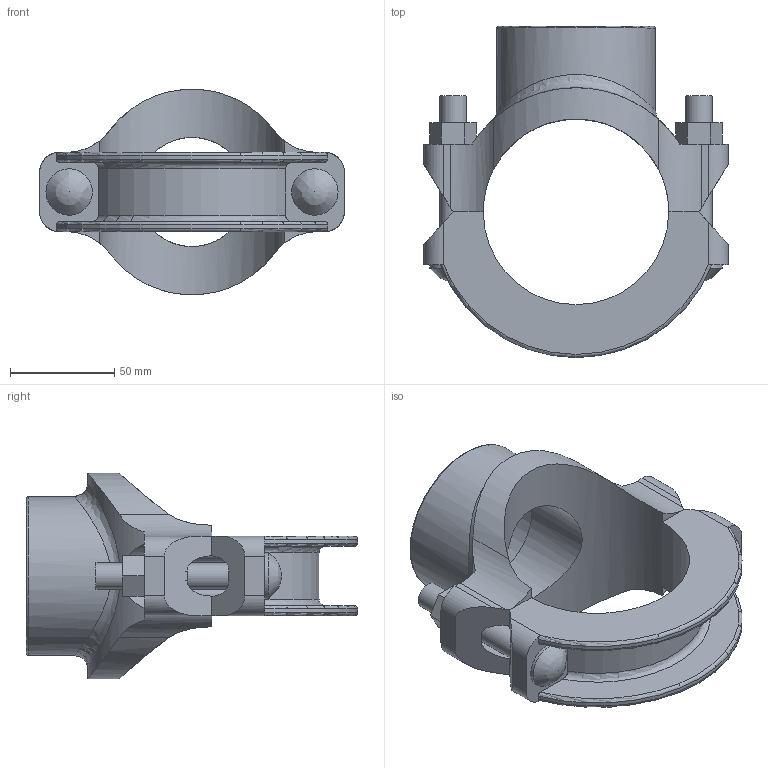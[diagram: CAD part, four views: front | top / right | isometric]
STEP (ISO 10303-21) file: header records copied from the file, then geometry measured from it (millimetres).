
FILE_DESCRIPTION(/* description */ ('VIC SS MECHANICAL T BRANCH OUTLET STYLE 422 (BSPP)','CAx-IF Rec.Pracs.---Representation and Presentation of Product Manufacturing Information (PMI)---4.0---2014-10-13'),/* implementation_level */ '2;1');
FILE_NAME(/* name */ 'C:\Files for Export\422\STEP\Victaulic_SS-OGS_Mech-Tee Out_Style 422 (BSPP)\Victaulic_SS-OGS_Mech-Tee Out_Style 422 (BSPP)_03.0x02.0 (80x50).stp',/* time_stamp */ '2023-03-28T14:24:17+02:00',/* author */ ('jheald'),/* organization */ ('Victaulic'),/* preprocessor_version */ 'ST-DEVELOPER v18.1',/* originating_system */ 'Autodesk Inventor 2020',/* authorisation */ '');
FILE_SCHEMA (('AP242_MANAGED_MODEL_BASED_3D_ENGINEERING_MIM_LF { 1 0 10303 442 1 1 4 }'));
Length unit declared in the file: inch
Products named in the file (1): 422-03.0x02.0
Bounding box: 146.05 x 158.75 x 98.54 mm (x, y, z)
Volume: 332551.1 mm3; surface area: 83363.2 mm2
Topology: 1 solids, 1 shells, 96 faces, 284 edges, 190 vertices
Faces by surface type: plane 52, cylinder 34, torus 7, bspline 3
Full cylindrical faces by diameter (mm): 12.7 x4, 22.225 x2, 52.387 x1, 60.325 x1, 76.2 x1, 88.9 x1
Entity records: 4054 total; most frequent: CARTESIAN_POINT 1234, ORIENTED_EDGE 564, DIRECTION 560, EDGE_CURVE 282, AXIS2_PLACEMENT_3D 204, VERTEX_POINT 190, LINE 152, VECTOR 152
